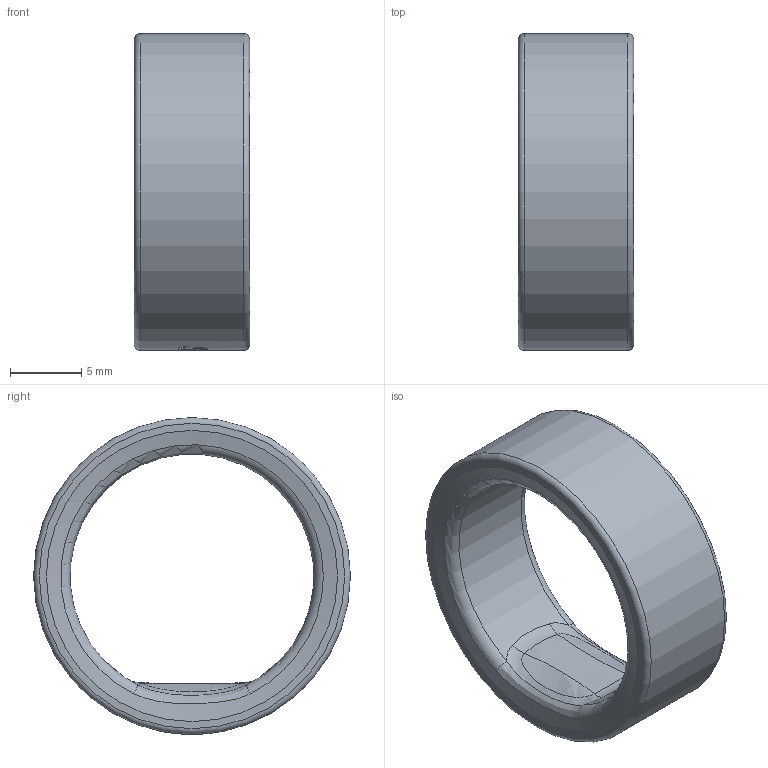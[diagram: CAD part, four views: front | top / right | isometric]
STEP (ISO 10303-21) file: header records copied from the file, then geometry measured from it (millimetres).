
FILE_DESCRIPTION(/* description */ (''),/* implementation_level */ '2;1');
FILE_NAME(/* name */ 'Size 06_Sizing Kit v5.step',/* time_stamp */ '2024-05-07T15:22:56+05:30',/* author */ (''),/* organization */ (''),/* preprocessor_version */ 'ST-DEVELOPER v20',/* originating_system */ 'Autodesk Translation Framework v12.20.1.177',/* authorisation */ '');
FILE_SCHEMA (('AUTOMOTIVE_DESIGN { 1 0 10303 214 3 1 1 }'));
Length unit declared in the file: millimetre
Products named in the file (1): Size 06_Sizing Kit
Bounding box: 8.1 x 22.27 x 22.27 mm (x, y, z)
Volume: 1266.4 mm3; surface area: 1341.7 mm2
Topology: 1 solids, 2 shells, 105 faces, 281 edges, 185 vertices
Faces by surface type: bspline 82, plane 10, cylinder 6, torus 5, cone 2
Full cylindrical faces by diameter (mm): 20.801 x1, 21.667 x1, 22.267 x1
Entity records: 5887 total; most frequent: CARTESIAN_POINT 3749, ORIENTED_EDGE 562, EDGE_CURVE 281, DIRECTION 203, VERTEX_POINT 185, B_SPLINE_CURVE_WITH_KNOTS 162, EDGE_LOOP 114, FACE_OUTER_BOUND 105
